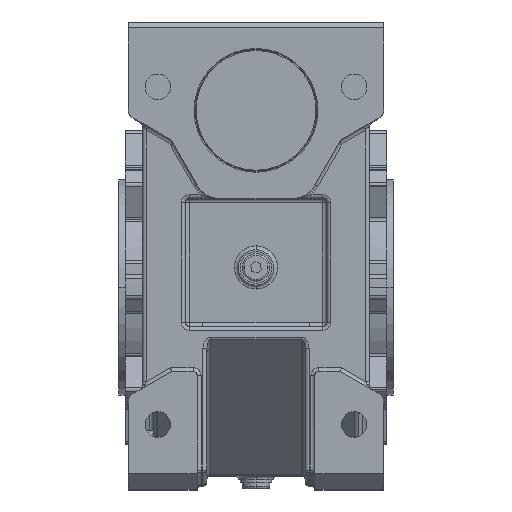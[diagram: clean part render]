
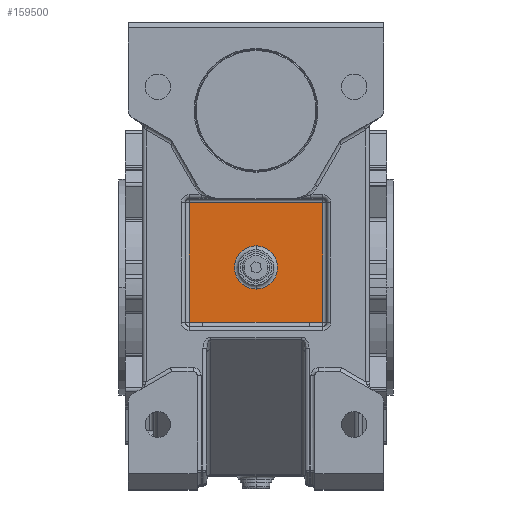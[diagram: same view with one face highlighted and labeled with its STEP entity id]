
A CAD part, top view. The second image highlights one B-rep face of the part: STEP entity #159500.
In plain terms, the highlighted planar face has unit normal (0, 0, 1).
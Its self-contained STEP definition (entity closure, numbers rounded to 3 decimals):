
#76854 = CARTESIAN_POINT ( 'NONE',  ( -34., 43., 96. ) ) ;
#76858 = CARTESIAN_POINT ( 'NONE',  ( 34., 43., 96. ) ) ;
#76876 = DIRECTION ( 'NONE',  ( 0., 1., 0. ) ) ;
#76879 = VECTOR ( 'NONE', #76876, 1000. ) ;
#76881 = CARTESIAN_POINT ( 'NONE',  ( 34., 90., 96. ) ) ;
#76882 = LINE ( 'NONE', #76881, #76879 ) ;
#76892 = CARTESIAN_POINT ( 'NONE',  ( 34., -18., 96. ) ) ;
#76913 = DIRECTION ( 'NONE',  ( 1., 0., 0. ) ) ;
#76914 = VECTOR ( 'NONE', #76913, 1000. ) ;
#76916 = CARTESIAN_POINT ( 'NONE',  ( 43., -18., 96. ) ) ;
#76918 = LINE ( 'NONE', #76916, #76914 ) ;
#76937 = DIRECTION ( 'NONE',  ( -1., 0., 0. ) ) ;
#77134 = LINE ( 'NONE', #77303, #77299 ) ;
#77299 = VECTOR ( 'NONE', #76937, 1000. ) ;
#77303 = CARTESIAN_POINT ( 'NONE',  ( 43., 43., 96. ) ) ;
#79601 = DIRECTION ( 'NONE',  ( 0., -1., 0. ) ) ;
#79603 = VECTOR ( 'NONE', #79601, 1000. ) ;
#79604 = CARTESIAN_POINT ( 'NONE',  ( -34., 90., 96. ) ) ;
#79607 = LINE ( 'NONE', #79604, #79603 ) ;
#79822 = CARTESIAN_POINT ( 'NONE',  ( 27., -18., 96. ) ) ;
#79844 = DIRECTION ( 'NONE',  ( 1., 0., 0. ) ) ;
#79845 = VECTOR ( 'NONE', #79844, 1000. ) ;
#79847 = CARTESIAN_POINT ( 'NONE',  ( 43., -18., 96. ) ) ;
#79849 = LINE ( 'NONE', #79847, #79845 ) ;
#79858 = CARTESIAN_POINT ( 'NONE',  ( -27., -18., 96. ) ) ;
#79874 = CARTESIAN_POINT ( 'NONE',  ( -34., -18., 96. ) ) ;
#79876 = DIRECTION ( 'NONE',  ( 1., 0., 0. ) ) ;
#79878 = VECTOR ( 'NONE', #79876, 1000. ) ;
#79881 = CARTESIAN_POINT ( 'NONE',  ( 43., -18., 96. ) ) ;
#79882 = LINE ( 'NONE', #79881, #79878 ) ;
#86629 = CARTESIAN_POINT ( 'NONE',  ( 0., 21., 96. ) ) ;
#86634 = CARTESIAN_POINT ( 'NONE',  ( 0., -1., 96. ) ) ;
#86637 = DIRECTION ( 'NONE',  ( 0., 1., 0. ) ) ;
#86640 = DIRECTION ( 'NONE',  ( 0., 0., -1. ) ) ;
#86641 = CARTESIAN_POINT ( 'NONE',  ( 0., 10., 96. ) ) ;
#86644 = AXIS2_PLACEMENT_3D ( 'NONE', #86641, #86640, #86637 ) ;
#86647 = CIRCLE ( 'NONE', #86644, 11. ) ;
#143808 = DIRECTION ( 'NONE',  ( 0., 1., 0. ) ) ;
#143809 = DIRECTION ( 'NONE',  ( 0., 0., -1. ) ) ;
#143810 = CARTESIAN_POINT ( 'NONE',  ( 0., 10., 96. ) ) ;
#143811 = AXIS2_PLACEMENT_3D ( 'NONE', #143810, #143809, #143808 ) ;
#143812 = CIRCLE ( 'NONE', #143811, 11. ) ;
#143813 = DIRECTION ( 'NONE',  ( 0., 1., 0. ) ) ;
#143814 = DIRECTION ( 'NONE',  ( 0., 0., -1. ) ) ;
#143815 = CARTESIAN_POINT ( 'NONE',  ( 43., 90., 96. ) ) ;
#143816 = AXIS2_PLACEMENT_3D ( 'NONE', #143815, #143814, #143813 ) ;
#143817 = PLANE ( 'NONE',  #143816 ) ;
#143818 = FACE_OUTER_BOUND ( 'NONE', #159852, .T. ) ;
#143819 = FACE_BOUND ( 'NONE', #159501, .T. ) ;
#156644 = EDGE_CURVE ( 'NONE', #156646, #156650, #86647, .T. ) ;
#156646 = VERTEX_POINT ( 'NONE', #86634 ) ;
#156650 = VERTEX_POINT ( 'NONE', #86629 ) ;
#159500 = ADVANCED_FACE ( 'NONE', ( #143819, #143818 ), #143817, .F. ) ;
#159501 = EDGE_LOOP ( 'NONE', ( #159503, #159847 ) ) ;
#159503 = ORIENTED_EDGE ( 'NONE', *, *, #159505, .T. ) ;
#159505 = EDGE_CURVE ( 'NONE', #156650, #156646, #143812, .T. ) ;
#159693 = ORIENTED_EDGE ( 'NONE', *, *, #159697, .T. ) ;
#159697 = EDGE_CURVE ( 'NONE', #159877, #159702, #76918, .T. ) ;
#159702 = VERTEX_POINT ( 'NONE', #76892 ) ;
#159706 = ORIENTED_EDGE ( 'NONE', *, *, #159710, .T. ) ;
#159710 = EDGE_CURVE ( 'NONE', #159702, #159714, #76882, .T. ) ;
#159714 = VERTEX_POINT ( 'NONE', #76858 ) ;
#159716 = VERTEX_POINT ( 'NONE', #76854 ) ;
#159794 = ORIENTED_EDGE ( 'NONE', *, *, #159798, .T. ) ;
#159798 = EDGE_CURVE ( 'NONE', #159716, #159862, #79607, .T. ) ;
#159847 = ORIENTED_EDGE ( 'NONE', *, *, #156644, .T. ) ;
#159852 = EDGE_LOOP ( 'NONE', ( #159856, #159869, #159693, #159706, #159970, #159794 ) ) ;
#159856 = ORIENTED_EDGE ( 'NONE', *, *, #159860, .T. ) ;
#159860 = EDGE_CURVE ( 'NONE', #159862, #159866, #79882, .T. ) ;
#159862 = VERTEX_POINT ( 'NONE', #79874 ) ;
#159866 = VERTEX_POINT ( 'NONE', #79858 ) ;
#159869 = ORIENTED_EDGE ( 'NONE', *, *, #159872, .T. ) ;
#159872 = EDGE_CURVE ( 'NONE', #159866, #159877, #79849, .T. ) ;
#159877 = VERTEX_POINT ( 'NONE', #79822 ) ;
#159970 = ORIENTED_EDGE ( 'NONE', *, *, #159973, .T. ) ;
#159973 = EDGE_CURVE ( 'NONE', #159714, #159716, #77134, .T. ) ;
